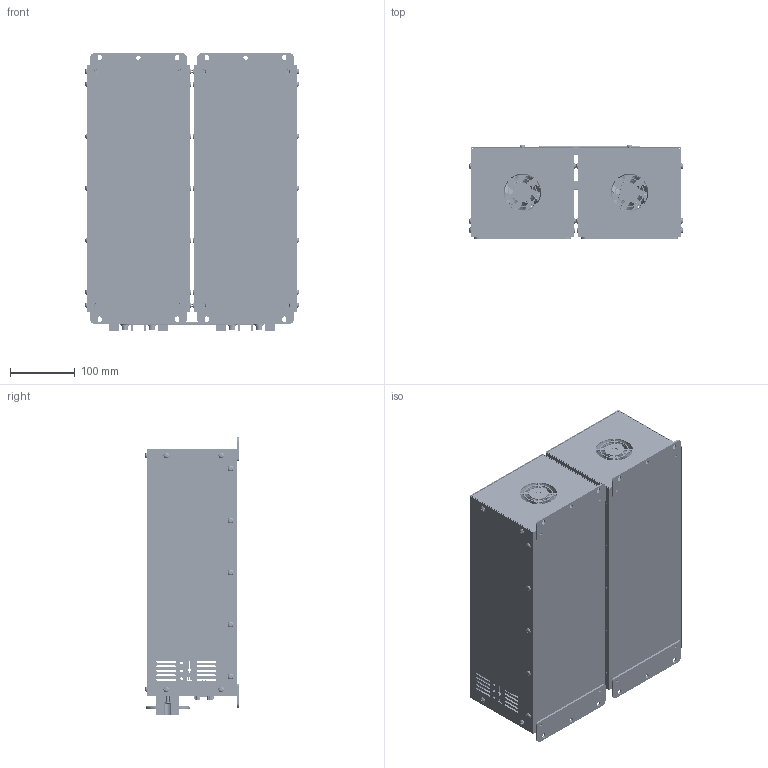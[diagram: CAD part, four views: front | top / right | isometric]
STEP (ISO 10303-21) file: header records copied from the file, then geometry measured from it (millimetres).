
FILE_DESCRIPTION(/* description */ (''),/* implementation_level */ '2;1');
FILE_NAME(/* name */ 'G:\016_배터리 버스바 도면\X2COM\[3D 도면]\[STEP,IGES]\X2COM-BUSBAR.stp',/* time_stamp */ '2023-08-25T15:00:21+09:00',/* author */ ('jjang'),/* organization */ (''),/* preprocessor_version */ 'ST-DEVELOPER v18.1',/* originating_system */ 'Autodesk Inventor 2021',/* authorisation */ '');
FILE_SCHEMA (('AUTOMOTIVE_DESIGN { 1 0 10303 214 3 1 1 }'));
Products named in the file (1): X2COM-BUSBAR_Shrinkwrap_1
Bounding box: 331.84 x 145.97 x 431 mm (x, y, z)
Volume: 1053738.5 mm3; surface area: 1311162.4 mm2
Topology: 13 solids, 13 shells, 8232 faces, 22500 edges, 14946 vertices
Faces by surface type: plane 3962, bspline 2660, cylinder 1406, torus 148, cone 30, sphere 26
Full cylindrical faces by diameter (mm): 0.61 x54, 0.635 x18, 0.9 x4, 1.397 x18, 2.286 x18, 2.5 x4, 2.8 x12, 2.957 x8, 3 x4, 3.048 x8, 3.6 x12, 3.7 x4, 3.8 x40, 4 x22, 4.3 x8, 4.5 x12, 5 x22, 5.3 x40, 5.4 x4, 5.429 x4, 6 x4, 6.082 x2, 6.2 x2, 6.6 x4, 8 x2, 8.8 x20, 9.2 x4, 10 x8, 13 x4, 25.4 x2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
Entity records: 307909 total; most frequent: CARTESIAN_POINT 105385, ORIENTED_EDGE 44964, DIRECTION 32496, EDGE_CURVE 22482, VERTEX_POINT 14946, LINE 12770, VECTOR 12770, AXIS2_PLACEMENT_3D 9863
